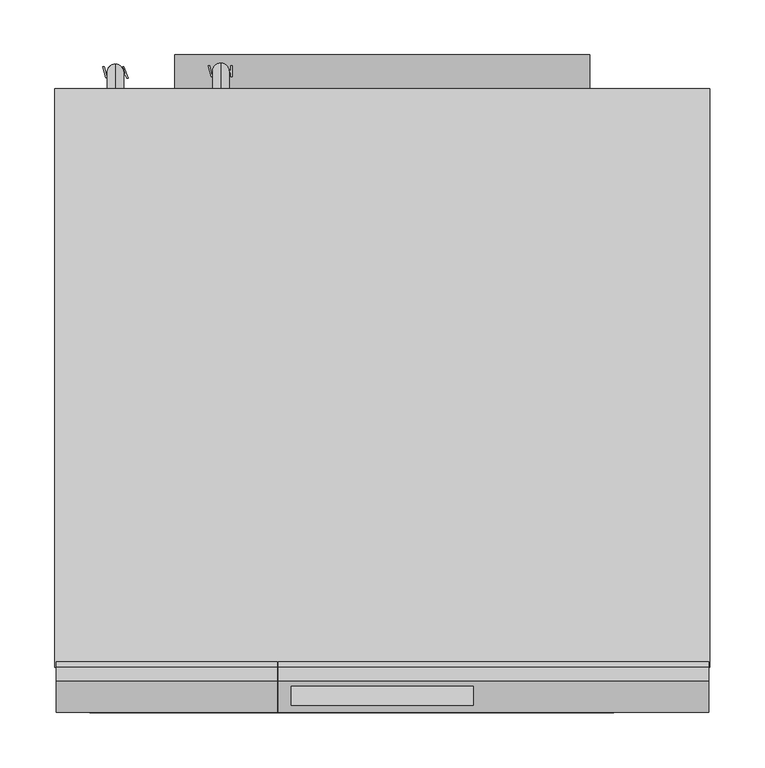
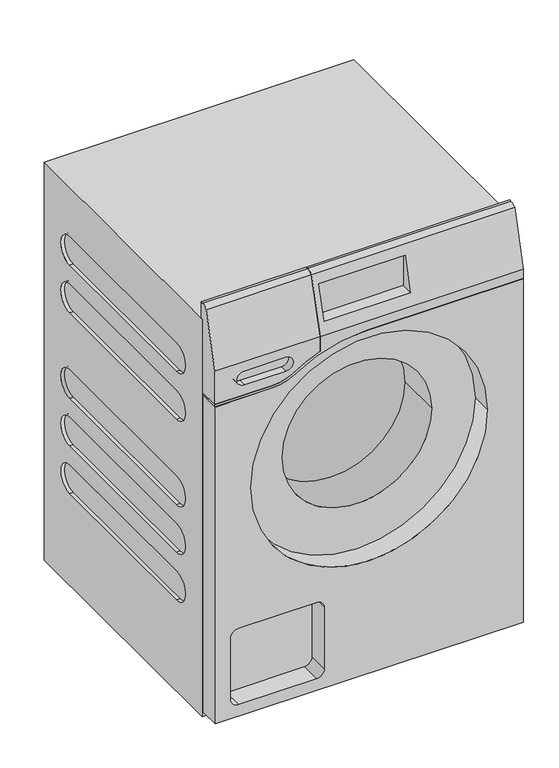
"""IFC4 building model written with IfcOpenShell, lengths in millimetres: proxy geometry, 12728160_I_WEE395WCS_LW : 11EE3951_I_12728160_WEE395WCS_LW."""

from ifc_helpers import new_model, si_unit, point, frame, frame_2d, origin, origin_with_axes, place, context, project, spatial, polyline, circle_curve, ellipse_curve, trimmed, segment, composite_curve, outline, extrude, source, transform, mapped, element, save
from ifc_brep_helpers import plane_surface, cylinder_surface, revolved_surface, advanced_brep


def specialty_equipment_d5196754(model_context):
    return source(origin(), model_context, "Body", "SolidModel", [
        advanced_brep(
        [(297.0, -554.0, 850.0), (297.0, -558.3743789, 850.0), (297.0, -570.9595268, 844.5396324), (297.0, -600.0, 736.159111), (297.0, -600.0, 718.0), (297.0, -560.0, 718.0), (297.0, -560.0, 818.0), (297.0, -554.0, 818.0), (-297.0, -560.0, 664.0), (-297.0, -600.0, 664.0), (-297.0, -600.0, 668.0), (-297.0, -560.0, 668.0), (-94.5, -554.0, 850.0), (-94.5, -558.3743789, 850.0), (-94.5, -600.0, 736.159111), (-94.5, -600.0, 705.9439484), (-147.3302559, -600.0, 678.7366161), (-185.7266361, -600.0, 668.0), (-186.2266361, -600.0, 664.0), (-145.1722991, -600.0, 675.3673121), (-5.7577941, -600.0, 718.0), (-5.7577941, -560.0, 718.0), (-145.1722991, -560.0, 675.3673121), (-186.2266361, -560.0, 664.0), (-185.7266361, -560.0, 668.0), (-147.3302559, -560.0, 678.7366161), (-94.5, -560.0, 705.9439484), (-94.5, -560.0, 818.0), (-94.5, -554.0, 818.0), (-94.5, -570.9595268, 844.5396324), (83.0, -570.0, 825.0), (-83.0, -570.0, 825.0), (-83.0, -570.0, 760.0), (83.0, -570.0, 760.0), (83.0, -593.611853, 760.0), (83.0, -576.1951555, 825.0), (-83.0, -593.611853, 760.0), (-83.0, -576.1951555, 825.0)],
        [
            (0, 1),
            (1, 2, circle_curve(frame((297.0, -558.3480923, 832.7059991), z_axis=(1.0, 0.0, 0.0), x_axis=(0.0, 0.0, 1.0)), 17.2940209)),
            (2, 3),
            (3, 4),
            (4, 5),
            (5, 6),
            (6, 7),
            (7, 0),
            (8, 9),
            (9, 10),
            (10, 11),
            (11, 8),
            (0, 12),
            (12, 13),
            (13, 1),
            (3, 14),
            (14, 15),
            (15, 16, circle_curve(frame((-5.7577941, -600.0, 468.7317583), z_axis=(0.0, -1.0, 0.0), x_axis=(-1.0, 0.0, 0.0)), 253.2682417)),
            (16, 17, circle_curve(frame((-185.7266361, -600.0, 742.0250428), z_axis=(0.0, 1.0, 0.0), x_axis=(-1.0, 0.0, 0.0)), 74.0250428)),
            (17, 10),
            (9, 18),
            (18, 19, circle_curve(frame((-186.2266361, -600.0, 743.8198531), z_axis=(0.0, -1.0, 0.0), x_axis=(-1.0, 0.0, 0.0)), 79.8198531)),
            (19, 20, circle_curve(frame((-5.7577941, -600.0, 468.7317583), z_axis=(0.0, 1.0, 0.0), x_axis=(-1.0, 0.0, 0.0)), 249.2682417)),
            (20, 4),
            (5, 21),
            (21, 22, circle_curve(frame((-5.7577941, -560.0, 468.7317583), z_axis=(0.0, -1.0, 0.0), x_axis=(-1.0, 0.0, 0.0)), 249.2682417)),
            (22, 23, circle_curve(frame((-186.2266361, -560.0, 743.8198531), z_axis=(0.0, 1.0, 0.0), x_axis=(-1.0, 0.0, 0.0)), 79.8198531)),
            (23, 8),
            (11, 24),
            (24, 25, circle_curve(frame((-185.7266361, -560.0, 742.0250428), z_axis=(0.0, -1.0, 0.0), x_axis=(-1.0, 0.0, 0.0)), 74.0250428)),
            (25, 26, circle_curve(frame((-5.7577941, -560.0, 468.7317583), z_axis=(0.0, 1.0, 0.0), x_axis=(-1.0, 0.0, 0.0)), 253.2682417)),
            (26, 27),
            (27, 6),
            (27, 28),
            (28, 7),
            (28, 12),
            (19, 22),
            (21, 20),
            (13, 29, circle_curve(frame((-94.5, -558.3480923, 832.7059991), z_axis=(1.0, 0.0, 0.0), x_axis=(0.0, 0.0, 1.0)), 17.2940209)),
            (29, 2),
            (26, 15),
            (14, 29),
            (30, 31),
            (31, 32),
            (32, 33),
            (33, 30),
            (33, 34),
            (34, 35),
            (35, 30),
            (32, 36),
            (36, 34),
            (31, 37),
            (37, 36),
            (35, 37),
            (18, 23),
            (25, 16),
            (24, 17),
        ],
        [
            plane_surface(frame((297.0, -558.3743789, 850.0), z_axis=(1.0, 0.0, 0.0), x_axis=(0.0, -1.0, 0.0))),
            plane_surface(frame((-297.0, -558.3743789, 850.0), z_axis=(-1.0, 0.0, 0.0), x_axis=(0.0, 1.0, 0.0))),
            plane_surface(frame((297.0, -554.0, 850.0), z_axis=(0.0, 0.0, 1.0), x_axis=(-1.0, 0.0, 0.0))),
            plane_surface(frame((297.0, -600.0, 736.159111), z_axis=(0.0, -1.0, 0.0), x_axis=(-1.0, 0.0, 0.0))),
            plane_surface(frame((297.0, -560.0, 658.0), z_axis=(0.0, 1.0, 0.0), x_axis=(-1.0, 0.0, 0.0))),
            plane_surface(frame((297.0, -560.0, 818.0), z_axis=(0.0, 0.0, -1.0), x_axis=(-1.0, 0.0, 0.0))),
            plane_surface(frame((297.0, -554.0, 818.0), z_axis=(0.0, 1.0, 0.0), x_axis=(-1.0, 0.0, 0.0))),
            revolved_surface(polyline([(-255.02603580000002, -560.0, 468.7317583), (-255.02603580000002, -600.0, 468.7317583)]), (-5.7577941, -600.0, 468.7317583), (0.0, 1.0, 0.0)),
            plane_surface(frame((-5.7577941, -537.827873, 718.0), z_axis=(0.0, 0.0, -1.0), x_axis=(0.0, -1.0, 0.0))),
            cylinder_surface(frame((-297.0, -558.3480923, 832.7059991), z_axis=(1.0, 0.0, 0.0), x_axis=(0.0, 0.0, 1.0)), 17.2940209),
            plane_surface(frame((-94.5, -547.2464252, 852.4552379), z_axis=(-1.0, 0.0, 0.0), x_axis=(0.0, -1.0, 0.0))),
            plane_surface(frame((83.0, -570.0, 825.0), z_axis=(0.0, -1.0, 0.0), x_axis=(0.0, 0.0, -1.0))),
            plane_surface(frame((83.0, -570.0, 825.0), z_axis=(-1.0, 0.0, 0.0), x_axis=(0.0, -1.0, 0.0))),
            plane_surface(frame((83.0, -570.0, 760.0), z_axis=(0.0, 0.0, 1.0), x_axis=(0.0, -1.0, 0.0))),
            plane_surface(frame((-83.0, -570.0, 760.0), z_axis=(1.0, 0.0, 0.0), x_axis=(0.0, -1.0, 0.0))),
            plane_surface(frame((-83.0, -570.0, 825.0), z_axis=(0.0, 0.0, -1.0), x_axis=(0.0, -1.0, 0.0))),
            plane_surface(frame((297.0, -570.9595268, 844.5396324), z_axis=(0.0, -0.9659258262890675, 0.25881904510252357), x_axis=(-1.0, 0.0, 0.0))),
            cylinder_surface(frame((-186.2266361, -600.0, 743.8198531), z_axis=(0.0, -1.0, 0.0), x_axis=(-1.0, 0.0, 0.0)), 79.8198531),
            plane_surface(frame((-297.0, -537.827873, 664.0), z_axis=(0.0, 0.0, -1.0), x_axis=(0.0, -1.0, 0.0))),
            cylinder_surface(frame((-5.7577941, -600.0, 468.7317583), z_axis=(0.0, -1.0, 0.0), x_axis=(-1.0, 0.0, 0.0)), 253.2682417),
            revolved_surface(polyline([(-259.7516789, -560.0, 742.0250428), (-259.7516789, -600.0, 742.0250428)]), (-185.7266361, -600.0, 742.0250428), (0.0, 1.0, 0.0)),
            plane_surface(frame((-185.7266361, -547.2464252, 668.0), z_axis=(0.0, 0.0, 1.0), x_axis=(0.0, -1.0, 0.0))),
        ],
        [
            (0, [[1, 2, 3, 4, 5, 6, 7, 8]]),
            (1, [[9, 10, 11, 12]]),
            (2, [[-1, 13, 14, 15]]),
            (3, [[-4, 16, 17, 18, 19, 20, -10, 21, 22, 23, 24]]),
            (4, [[-6, 25, 26, 27, 28, -12, 29, 30, 31, 32, 33]]),
            (5, [[-7, -33, 34, 35]]),
            (6, [[-8, -35, 36, -13]]),
            (7, [[37, -26, 38, -23]]),
            (8, [[-38, -25, -5, -24]]),
            (9, [[-2, -15, 39, 40]]),
            (10, [[41, -17, 42, -39, -14, -36, -34, -32]]),
            (11, [[43, 44, 45, 46]]),
            (12, [[-46, 47, 48, 49]]),
            (13, [[-45, 50, 51, -47]]),
            (14, [[-44, 52, 53, -50]]),
            (15, [[-43, -49, 54, -52]]),
            (16, [[-3, -40, -42, -16], [-48, -51, -53, -54]]),
            (17, [[55, -27, -37, -22]]),
            (18, [[-55, -21, -9, -28]]),
            (19, [[-41, -31, 56, -18]]),
            (20, [[-56, -30, 57, -19]]),
            (21, [[-57, -29, -11, -20]]),
        ],
    ),
        advanced_brep(
        [(-297.0, -554.0, 850.0), (-297.0, -554.0, 818.0), (-297.0, -560.0, 818.0), (-297.0, -560.0, 669.0), (-297.0, -600.0, 669.0), (-297.0, -600.0, 736.159111), (-297.0, -570.9595268, 844.5396324), (-297.0, -558.3743789, 850.0), (-95.5, -558.3743789, 850.0), (-95.5, -554.0, 850.0), (-185.7266361, -600.0, 669.0), (-147.869315, -600.0, 679.5792254), (-95.5, -600.0, 706.6365191), (-95.5, -600.0, 736.159111), (-240.5, -600.0, 717.0), (-160.5, -600.0, 717.0), (-160.5, -600.0, 689.0), (-240.5, -600.0, 689.0), (-95.5, -560.0, 818.0), (-95.5, -560.0, 706.6365191), (-147.869315, -560.0, 679.5792254), (-185.7266361, -560.0, 669.0), (-95.5, -554.0, 818.0), (-95.5, -570.9595268, 844.5396324), (-160.5, -585.0, 717.0), (-240.5, -585.0, 717.0), (-240.5, -585.0, 689.0), (-160.5, -585.0, 689.0)],
        [
            (0, 1),
            (1, 2),
            (2, 3),
            (3, 4),
            (4, 5),
            (5, 6),
            (6, 7, circle_curve(frame((-297.0, -558.3480923, 832.7059991), z_axis=(-1.0, 0.0, 0.0), x_axis=(0.0, 0.0, 1.0)), 17.2940209)),
            (7, 0),
            (7, 8),
            (8, 9),
            (9, 0),
            (4, 10),
            (10, 11, circle_curve(frame((-185.7266361, -600.0, 742.0250428), z_axis=(0.0, -1.0, 0.0), x_axis=(-1.0, 0.0, 0.0)), 73.0250428)),
            (11, 12, circle_curve(frame((-5.7577941, -600.0, 468.7317583), z_axis=(0.0, 1.0, 0.0), x_axis=(-1.0, 0.0, 0.0)), 254.2682417)),
            (12, 13),
            (13, 5),
            (14, 15),
            (15, 16, circle_curve(frame((-160.5, -600.0, 703.0), z_axis=(0.0, 1.0, 0.0), x_axis=(-1.0, 0.0, 0.0)), 14.0)),
            (16, 17),
            (17, 14, circle_curve(frame((-240.5, -600.0, 703.0), z_axis=(0.0, 1.0, 0.0), x_axis=(-1.0, 0.0, 0.0)), 14.0)),
            (2, 18),
            (18, 19),
            (19, 20, circle_curve(frame((-5.7577941, -560.0, 468.7317583), z_axis=(0.0, -1.0, 0.0), x_axis=(-1.0, 0.0, 0.0)), 254.2682417)),
            (20, 21, circle_curve(frame((-185.7266361, -560.0, 742.0250428), z_axis=(0.0, 1.0, 0.0), x_axis=(-1.0, 0.0, 0.0)), 73.0250428)),
            (21, 3),
            (1, 22),
            (22, 18),
            (9, 22),
            (6, 23),
            (23, 8, circle_curve(frame((-95.5, -558.3480923, 832.7059991), z_axis=(-1.0, 0.0, 0.0), x_axis=(0.0, 0.0, 1.0)), 17.2940209)),
            (24, 25),
            (25, 26, circle_curve(frame((-240.5, -585.0, 703.0), z_axis=(0.0, -1.0, 0.0), x_axis=(-1.0, 0.0, 0.0)), 14.0)),
            (26, 27),
            (27, 24, circle_curve(frame((-160.5, -585.0, 703.0), z_axis=(0.0, -1.0, 0.0), x_axis=(-1.0, 0.0, 0.0)), 14.0)),
            (24, 15),
            (14, 25),
            (17, 26),
            (16, 27),
            (12, 19),
            (23, 13),
            (21, 10),
            (20, 11),
        ],
        [
            plane_surface(frame((-297.0, -558.3743789, 850.0), z_axis=(-1.0, 0.0, 0.0), x_axis=(0.0, 1.0, 0.0))),
            plane_surface(frame((297.0, -554.0, 850.0), z_axis=(0.0, 0.0, 1.0), x_axis=(-1.0, 0.0, 0.0))),
            plane_surface(frame((297.0, -600.0, 736.159111), z_axis=(0.0, -1.0, 0.0), x_axis=(-1.0, 0.0, 0.0))),
            plane_surface(frame((297.0, -560.0, 658.0), z_axis=(0.0, 1.0, 0.0), x_axis=(-1.0, 0.0, 0.0))),
            plane_surface(frame((297.0, -560.0, 818.0), z_axis=(0.0, 0.0, -1.0), x_axis=(-1.0, 0.0, 0.0))),
            plane_surface(frame((297.0, -554.0, 818.0), z_axis=(0.0, 1.0, 0.0), x_axis=(-1.0, 0.0, 0.0))),
            cylinder_surface(frame((-297.0, -558.3480923, 832.7059991), z_axis=(1.0, 0.0, 0.0), x_axis=(0.0, 0.0, 1.0)), 17.2940209),
            plane_surface(frame((-174.5, -585.0, 703.0), z_axis=(0.0, -1.0, 0.0), x_axis=(0.0, 0.0, 1.0))),
            plane_surface(frame((-240.5, -585.0, 717.0), z_axis=(0.0, 0.0, -1.0), x_axis=(0.0, -1.0, 0.0))),
            revolved_surface(polyline([(-254.5, -585.0, 703.0), (-254.5, -600.0, 703.0)]), (-240.5, -625.7120467, 703.0), (0.0, 1.0, 0.0)),
            plane_surface(frame((-160.5, -585.0, 689.0), z_axis=(0.0, 0.0, 1.0), x_axis=(0.0, -1.0, 0.0))),
            revolved_surface(polyline([(-174.5, -585.0, 703.0), (-174.5, -600.0, 703.0)]), (-160.5, -625.7120467, 703.0), (0.0, 1.0, 0.0)),
            plane_surface(frame((-95.5, -547.2464252, 706.6365191), z_axis=(1.0, 0.0, 0.0), x_axis=(0.0, -1.0, 0.0))),
            plane_surface(frame((297.0, -570.9595268, 844.5396324), z_axis=(0.0, -0.9659258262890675, 0.25881904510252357), x_axis=(-1.0, 0.0, 0.0))),
            plane_surface(frame((-297.0, -547.2464252, 669.0), z_axis=(0.0, 0.0, -1.0), x_axis=(0.0, -1.0, 0.0))),
            cylinder_surface(frame((-185.7266361, -600.0, 742.0250428), z_axis=(0.0, -1.0, 0.0), x_axis=(-1.0, 0.0, 0.0)), 73.0250428),
            revolved_surface(polyline([(-260.0260358, -560.0, 468.7317583), (-260.0260358, -600.0, 468.7317583)]), (-5.7577941, -600.0, 468.7317583), (0.0, 1.0, 0.0)),
        ],
        [
            (0, [[1, 2, 3, 4, 5, 6, 7, 8]]),
            (1, [[-8, 9, 10, 11]]),
            (2, [[-5, 12, 13, 14, 15, 16], [17, 18, 19, 20]]),
            (3, [[-3, 21, 22, 23, 24, 25]]),
            (4, [[-2, 26, 27, -21]]),
            (5, [[-1, -11, 28, -26]]),
            (6, [[-7, 29, 30, -9]]),
            (7, [[31, 32, 33, 34]]),
            (8, [[-31, 35, -17, 36]]),
            (9, [[-32, -36, -20, 37]]),
            (10, [[-33, -37, -19, 38]]),
            (11, [[-34, -38, -18, -35]]),
            (12, [[39, -22, -27, -28, -10, -30, 40, -15]]),
            (13, [[-6, -16, -40, -29]]),
            (14, [[41, -12, -4, -25]]),
            (15, [[-41, -24, 42, -13]]),
            (16, [[-42, -23, -39, -14]]),
        ],
    ),
        extrude(outline(composite_curve([segment(polyline([(663.5, -296.5), (18.0, -296.5), (18.0, 296.5), (717.5, 296.5), (717.5, -5.7577941)]), True, "CONTINUOUS"), segment(trimmed(circle_curve(frame_2d((468.7317583, -5.7577941)), 248.7682417), [point((717.5, -5.7577941))], [point((674.9462734, -144.9023658))], False, "CARTESIAN"), True, "CONTINUOUS"), segment(trimmed(circle_curve(frame_2d((742.0250428, -185.7266361)), 78.5250428), [point((674.9462734, -144.9023658))], [point((663.5, -185.7266361))], True, "CARTESIAN"), True, "CONTINUOUS"), segment(polyline([(663.5, -185.7266361), (663.5, -296.5)]), True, "CONTINUOUS")], self_intersect=False), holes=[composite_curve([segment(trimmed(circle_curve(frame_2d((475.0, 0.0)), 228.0), [point((475.0, -228.0))], [point((475.0, 228.0))], True, "CARTESIAN"), True, "CONTINUOUS"), segment(trimmed(circle_curve(frame_2d((475.0, 0.0)), 228.0), [point((475.0, 228.0))], [point((475.0, -228.0))], True, "CARTESIAN"), True, "CONTINUOUS")], self_intersect=False), composite_curve([segment(polyline([(182.0, -86.5), (57.0, -86.5)]), True, "CONTINUOUS"), segment(trimmed(circle_curve(frame_2d((57.0, -101.5)), 15.0), [point((57.0, -86.5))], [point((42.0, -101.5))], True, "CARTESIAN"), True, "CONTINUOUS"), segment(polyline([(42.0, -101.5), (42.0, -251.5)]), True, "CONTINUOUS"), segment(trimmed(circle_curve(frame_2d((57.0, -251.5)), 15.0), [point((42.0, -251.5))], [point((57.0, -266.5))], True, "CARTESIAN"), True, "CONTINUOUS"), segment(polyline([(57.0, -266.5), (182.0, -266.5)]), True, "CONTINUOUS"), segment(trimmed(circle_curve(frame_2d((182.0, -251.5)), 15.0), [point((182.0, -266.5))], [point((197.0, -251.5))], True, "CARTESIAN"), True, "CONTINUOUS"), segment(polyline([(197.0, -251.5), (197.0, -101.5)]), True, "CONTINUOUS"), segment(trimmed(circle_curve(frame_2d((182.0, -101.5)), 15.0), [point((197.0, -101.5))], [point((182.0, -86.5))], True, "CARTESIAN"), True, "CONTINUOUS")], self_intersect=False)]), frame((0.0, -600.0, 0.0), z_axis=(0.0, 1.0, 0.0), x_axis=(0.0, 0.0, 1.0)), (0.0, 0.0, 1.0), 40.0),
        extrude(outline(composite_curve([segment(trimmed(circle_curve(frame_2d((172.0, 0.0)), 85.0), [point((128.0, -72.7255113))], [point((128.0, 72.7255113))], False, "CARTESIAN"), True, "CONTINUOUS"), segment(polyline([(128.0, 72.7255113), (457.0, 186.7618805)]), True, "CONTINUOUS"), segment(trimmed(circle_curve(frame_2d((486.0, 0.0)), 189.0), [point((457.0, 186.7618805))], [point((457.0, -186.7618805))], False, "CARTESIAN"), True, "CONTINUOUS"), segment(polyline([(457.0, -186.7618805), (128.0, -72.7255113)]), True, "CONTINUOUS")], self_intersect=False)), frame((0.0, -32.0, 0.0), z_axis=(0.0, 1.0, 0.0), x_axis=(0.0, 0.0, 1.0)), (0.0, 0.0, 1.0), 31.0),
        extrude(outline(polyline([(-245.0283197, -21.9198802), (-247.6226621, -13.1308402), (-250.3496859, -21.9195554), (-251.6847859, -21.9195554), (-254.4297172, -11.8631004), (-253.1339679, -11.8631004), (-251.0443144, -20.5032988), (-248.5340813, -11.857379), (-246.6711164, -11.857379), (-244.1552565, -20.5022346), (-242.0681971, -11.8564437), (-240.7754796, -11.8564437), (-243.5175667, -21.9198802), (-245.0283197, -21.9198802)])), frame((0.0, 0.0, 722.0), z_axis=(0.0, 0.0, 1.0), x_axis=(1.0, 0.0, 0.0)), (0.0, 0.0, 1.0), 1.0),
        extrude(outline(polyline([(-239.0721098, -22.0032768), (-240.4069745, -22.0032768), (-236.3935979, -11.9549404), (-235.3188514, -11.9549404), (-231.3155433, -21.9958861), (-232.6216403, -21.9958861), (-233.7882604, -18.865268), (-237.929968, -18.865268), (-239.0721098, -22.0032768)]), holes=[polyline([(-237.4730851, -17.6099926), (-234.256037, -17.6099926), (-235.8835115, -13.2426749), (-237.4730851, -17.6099926)])]), frame((0.0, 0.0, 722.0), z_axis=(0.0, 0.0, 1.0), x_axis=(1.0, 0.0, 0.0)), (0.0, 0.0, 1.0), 1.0),
        extrude(outline(polyline([(-149.0371951, -21.0084005), (-151.6315375, -12.2193606), (-154.3585613, -21.0080758), (-155.6936613, -21.0080758), (-158.4385926, -10.9516208), (-157.1428433, -10.9516208), (-155.0531898, -19.5918192), (-152.5429567, -10.9458994), (-150.6799918, -10.9458994), (-148.1641319, -19.590755), (-146.0770725, -10.9449641), (-144.784355, -10.9449641), (-147.5264421, -21.0084005), (-149.0371951, -21.0084005)])), frame((0.0, 0.0, 728.0), z_axis=(0.0, 0.0, 1.0), x_axis=(1.0, 0.0, 0.0)), (0.0, 0.0, 1.0), 1.0),
        extrude(outline(polyline([(-137.7520367, -21.0), (-137.7520367, -17.5380382), (-139.4320631, -15.9333791), (-143.267056, -20.9969068), (-144.8092352, -20.9969068), (-140.3268814, -15.0786372), (-144.6471582, -10.9521715), (-142.8938795, -10.9521715), (-137.7520367, -15.8633471), (-137.7520367, -10.9502531), (-136.4793974, -10.9502531), (-136.4793974, -21.0), (-137.7520367, -21.0)])), frame((0.0, 0.0, 728.0), z_axis=(0.0, 0.0, 1.0), x_axis=(1.0, 0.0, 0.0)), (0.0, 0.0, 1.0), 1.0),
        advanced_brep(
        [(-243.0, -32.0, 760.5), (-243.0, -32.0, 745.5), (-243.0, -9.5, 760.5), (-243.0, -24.5, 745.5), (-243.0, -9.5, 723.0), (-243.0, -24.5, 723.0)],
        [
            (0, 1, circle_curve(frame((-243.0, -32.0, 753.0), z_axis=(0.0, -1.0, 0.0), x_axis=(0.0, 0.0, -1.0)), 7.5)),
            (1, 0, circle_curve(frame((-243.0, -32.0, 753.0), z_axis=(0.0, -1.0, 0.0), x_axis=(0.0, 0.0, -1.0)), 7.5)),
            (0, 2),
            (2, 3, ellipse_curve(frame((-243.0, -17.0, 753.0), z_axis=(0.0, -0.7071067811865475, 0.7071067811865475), x_axis=(0.0, -0.7071067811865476, -0.7071067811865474)), 10.6066017, 7.5)),
            (3, 1),
            (3, 2, ellipse_curve(frame((-243.0, -17.0, 753.0), z_axis=(0.0, -0.7071067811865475, 0.7071067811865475), x_axis=(0.0, -0.7071067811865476, -0.7071067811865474)), 10.6066017, 7.5)),
            (4, 5, circle_curve(frame((-243.0, -17.0, 723.0), z_axis=(0.0, 0.0, -1.0), x_axis=(0.0, -1.0, 0.0)), 7.5)),
            (5, 4, circle_curve(frame((-243.0, -17.0, 723.0), z_axis=(0.0, 0.0, -1.0), x_axis=(0.0, -1.0, 0.0)), 7.5)),
            (2, 4),
            (5, 3),
        ],
        [
            plane_surface(frame((-243.0, -32.0, 753.0), z_axis=(0.0, -1.0, 0.0), x_axis=(-1.0, 0.0, 0.0))),
            cylinder_surface(frame((-243.0, -32.0, 753.0), z_axis=(0.0, -1.0, 0.0), x_axis=(0.0, 0.0, -1.0)), 7.5),
            plane_surface(frame((-243.0, -17.0, 723.0), z_axis=(0.0, 0.0, -1.0), x_axis=(-1.0, 0.0, 0.0))),
            cylinder_surface(frame((-243.0, -17.0, 753.0), z_axis=(0.0, 0.0, 1.0), x_axis=(0.0, -1.0, 0.0)), 7.5),
        ],
        [
            (0, [[1, 2]]),
            (1, [[-1, 3, 4, 5]]),
            (1, [[-2, -5, 6, -3]]),
            (2, [[7, 8]]),
            (3, [[-4, 9, -8, 10]]),
            (3, [[-6, -10, -7, -9]]),
        ],
    ),
        advanced_brep(
        [(-147.0, -32.0, 766.5), (-147.0, -32.0, 751.5), (-147.0, -8.5, 766.5), (-147.0, -23.5, 751.5), (-147.0, -8.5, 729.0), (-147.0, -23.5, 729.0)],
        [
            (0, 1, circle_curve(frame((-147.0, -32.0, 759.0), z_axis=(0.0, -1.0, 0.0), x_axis=(0.0, 0.0, -1.0)), 7.5)),
            (1, 0, circle_curve(frame((-147.0, -32.0, 759.0), z_axis=(0.0, -1.0, 0.0), x_axis=(0.0, 0.0, -1.0)), 7.5)),
            (0, 2),
            (2, 3, ellipse_curve(frame((-147.0, -16.0, 759.0), z_axis=(0.0, -0.70710678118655, 0.707106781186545), x_axis=(0.0, -0.7071067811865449, -0.70710678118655)), 10.6066017, 7.5)),
            (3, 1),
            (3, 2, ellipse_curve(frame((-147.0, -16.0, 759.0), z_axis=(0.0, -0.70710678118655, 0.707106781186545), x_axis=(0.0, -0.7071067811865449, -0.70710678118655)), 10.6066017, 7.5)),
            (4, 5, circle_curve(frame((-147.0, -16.0, 729.0), z_axis=(0.0, 0.0, -1.0), x_axis=(0.0, -1.0, 0.0)), 7.5)),
            (5, 4, circle_curve(frame((-147.0, -16.0, 729.0), z_axis=(0.0, 0.0, -1.0), x_axis=(0.0, -1.0, 0.0)), 7.5)),
            (2, 4),
            (5, 3),
        ],
        [
            plane_surface(frame((-147.0, -32.0, 759.0), z_axis=(0.0, -1.0, 0.0), x_axis=(-1.0, 0.0, 0.0))),
            cylinder_surface(frame((-147.0, -32.0, 759.0), z_axis=(0.0, -1.0, 0.0), x_axis=(0.0, 0.0, -1.0)), 7.5),
            plane_surface(frame((-147.0, -16.0, 729.0), z_axis=(0.0, 0.0, -1.0), x_axis=(-1.0, 0.0, 0.0))),
            cylinder_surface(frame((-147.0, -16.0, 759.0), z_axis=(0.0, 0.0, 1.0), x_axis=(0.0, -1.0, 0.0)), 7.5),
        ],
        [
            (0, [[1, 2]]),
            (1, [[-1, 3, 4, 5]]),
            (1, [[-2, -5, 6, -3]]),
            (2, [[7, 8]]),
            (3, [[-4, 9, -8, 10]]),
            (3, [[-6, -10, -7, -9]]),
        ],
    ),
        extrude(outline(polyline([(-24.1489694, 55.8141378), (-30.1201763, 55.8141378), (-30.1201763, 52.8005704), (-24.4569949, 52.8005704), (-24.4569949, 51.521084), (-30.1201763, 51.521084), (-30.1201763, 48.2496698), (-23.9879713, 48.2496698), (-23.9879713, 46.9701834), (-31.3464231, 46.9701834), (-31.3464231, 57.0455767), (-24.1489694, 57.0455767), (-24.1489694, 55.8141378)])), frame((-91.0, 0.0, 0.0), z_axis=(1.0, 0.0, 0.0), x_axis=(0.0, 1.0, 0.0)), (0.0, 0.0, 1.0), 1.0),
        extrude(outline(polyline([(-20.8531587, 57.0429653), (-20.8531587, 48.2519801), (-15.8267296, 48.2519801), (-15.8267296, 46.9971234), (-22.1029105, 46.9971234), (-22.1029105, 57.0429653), (-20.8531587, 57.0429653)])), frame((-91.0, 0.0, 0.0), z_axis=(1.0, 0.0, 0.0), x_axis=(0.0, 1.0, 0.0)), (0.0, 0.0, 1.0), 1.0),
        extrude(outline(composite_curve([segment(trimmed(circle_curve(frame_2d((-24.5, 52.0)), 7.5), [point((-24.5, 44.5))], [point((-24.5, 59.5))], False, "CARTESIAN"), True, "CONTINUOUS"), segment(trimmed(circle_curve(frame_2d((-24.5, 52.0)), 7.5), [point((-24.5, 59.5))], [point((-24.5, 44.5))], False, "CARTESIAN"), True, "CONTINUOUS")], self_intersect=False)), frame((-121.0, 0.0, 0.0), z_axis=(1.0, 0.0, 0.0), x_axis=(0.0, 1.0, 0.0)), (0.0, 0.0, 1.0), 30.0),
        extrude(outline(polyline([(-157.0, -17.0), (-121.0, -17.0), (-121.0, -32.0), (-157.0, -32.0), (-157.0, -17.0)])), frame((0.0, 0.0, 38.5), z_axis=(0.0, 0.0, 1.0), x_axis=(1.0, 0.0, 0.0)), (0.0, 0.0, 1.0), 27.0),
        advanced_brep(
        [(298.0, -32.0, 818.0), (-298.0, -32.0, 818.0), (-298.0, -559.0, 818.0), (298.0, -559.0, 818.0), (298.0, -32.0, 8.0), (298.0, -559.0, 8.0), (-298.0, -559.0, 8.0), (-298.0, -32.0, 8.0), (-298.0, -117.0, 253.0), (-298.0, -474.0, 253.0), (-298.0, -474.0, 195.0), (-298.0, -117.0, 195.0), (-298.0, -117.0, 350.0), (-298.0, -474.0, 350.0), (-298.0, -474.0, 292.0), (-298.0, -117.0, 292.0), (-298.0, -474.0, 563.0), (-298.0, -117.0, 563.0), (-298.0, -117.0, 621.0), (-298.0, -474.0, 621.0), (-298.0, -117.0, 718.0), (-298.0, -474.0, 718.0), (-298.0, -474.0, 660.0), (-298.0, -117.0, 660.0), (-298.0, -117.0, 447.0), (-298.0, -474.0, 447.0), (-298.0, -474.0, 389.0), (-298.0, -117.0, 389.0), (144.0, -559.0, 482.0), (-144.0, -559.0, 482.0), (298.0, -474.0, 253.0), (298.0, -117.0, 253.0), (298.0, -117.0, 195.0), (298.0, -474.0, 195.0), (298.0, -474.0, 350.0), (298.0, -117.0, 350.0), (298.0, -117.0, 292.0), (298.0, -474.0, 292.0), (298.0, -117.0, 563.0), (298.0, -474.0, 563.0), (298.0, -474.0, 621.0), (298.0, -117.0, 621.0), (298.0, -474.0, 718.0), (298.0, -117.0, 718.0), (298.0, -117.0, 660.0), (298.0, -474.0, 660.0), (298.0, -474.0, 447.0), (298.0, -117.0, 447.0), (298.0, -117.0, 389.0), (298.0, -474.0, 389.0), (291.0, -117.0, 253.0), (291.0, -474.0, 253.0), (291.0, -474.0, 195.0), (291.0, -117.0, 195.0), (291.0, -117.0, 350.0), (291.0, -474.0, 350.0), (291.0, -474.0, 292.0), (291.0, -117.0, 292.0), (291.0, -474.0, 563.0), (291.0, -117.0, 563.0), (291.0, -117.0, 621.0), (291.0, -474.0, 621.0), (291.0, -117.0, 718.0), (291.0, -474.0, 718.0), (291.0, -474.0, 660.0), (291.0, -117.0, 660.0), (-291.0, -117.0, 253.0), (-291.0, -117.0, 195.0), (-291.0, -474.0, 195.0), (-291.0, -474.0, 253.0), (-291.0, -117.0, 350.0), (-291.0, -117.0, 292.0), (-291.0, -474.0, 292.0), (-291.0, -474.0, 350.0), (-291.0, -474.0, 563.0), (-291.0, -474.0, 621.0), (-291.0, -117.0, 621.0), (-291.0, -117.0, 563.0), (-291.0, -117.0, 718.0), (-291.0, -117.0, 660.0), (-291.0, -474.0, 660.0), (-291.0, -474.0, 718.0), (-144.0, -471.0, 482.0), (144.0, -471.0, 482.0), (240.0, -148.0, 482.0), (-240.0, -148.0, 482.0), (240.0, -471.0, 482.0), (-240.0, -471.0, 482.0), (291.0, -117.0, 447.0), (291.0, -474.0, 447.0), (291.0, -474.0, 389.0), (291.0, -117.0, 389.0), (-291.0, -117.0, 447.0), (-291.0, -117.0, 389.0), (-291.0, -474.0, 389.0), (-291.0, -474.0, 447.0)],
        [
            (0, 1),
            (1, 2),
            (2, 3),
            (3, 0),
            (4, 5),
            (5, 6),
            (6, 7),
            (7, 4),
            (0, 4),
            (7, 1),
            (6, 2),
            (8, 9),
            (9, 10, circle_curve(frame((-298.0, -474.0, 224.0), z_axis=(1.0, 0.0, 0.0), x_axis=(0.0, 0.0, 1.0)), 29.0)),
            (10, 11),
            (11, 8, circle_curve(frame((-298.0, -117.0, 224.0), z_axis=(1.0, 0.0, 0.0), x_axis=(0.0, 0.0, 1.0)), 29.0)),
            (12, 13),
            (13, 14, circle_curve(frame((-298.0, -474.0, 321.0), z_axis=(1.0, 0.0, 0.0), x_axis=(0.0, 0.0, 1.0)), 29.0)),
            (14, 15),
            (15, 12, circle_curve(frame((-298.0, -117.0, 321.0), z_axis=(1.0, 0.0, 0.0), x_axis=(0.0, 0.0, 1.0)), 29.0)),
            (16, 17),
            (17, 18, circle_curve(frame((-298.0, -117.0, 592.0), z_axis=(1.0, 0.0, 0.0), x_axis=(0.0, 0.0, 1.0)), 29.0)),
            (18, 19),
            (19, 16, circle_curve(frame((-298.0, -474.0, 592.0), z_axis=(1.0, 0.0, 0.0), x_axis=(0.0, 0.0, 1.0)), 29.0)),
            (20, 21),
            (21, 22, circle_curve(frame((-298.0, -474.0, 689.0), z_axis=(1.0, 0.0, 0.0), x_axis=(0.0, 0.0, 1.0)), 29.0)),
            (22, 23),
            (23, 20, circle_curve(frame((-298.0, -117.0, 689.0), z_axis=(1.0, 0.0, 0.0), x_axis=(0.0, 0.0, 1.0)), 29.0)),
            (24, 25),
            (25, 26, circle_curve(frame((-298.0, -474.0, 418.0), z_axis=(1.0, 0.0, 0.0), x_axis=(0.0, 0.0, -1.0)), 29.0)),
            (26, 27),
            (27, 24, circle_curve(frame((-298.0, -117.0, 418.0), z_axis=(1.0, 0.0, 0.0), x_axis=(0.0, 0.0, -1.0)), 29.0)),
            (5, 3),
            (28, 29, circle_curve(frame((0.0, -559.0, 482.0), z_axis=(0.0, 1.0, 0.0), x_axis=(-1.0, 0.0, 0.0)), 144.0)),
            (29, 28, circle_curve(frame((0.0, -559.0, 482.0), z_axis=(0.0, 1.0, 0.0), x_axis=(-1.0, 0.0, 0.0)), 144.0)),
            (30, 31),
            (31, 32, circle_curve(frame((298.0, -117.0, 224.0), z_axis=(-1.0, 0.0, 0.0), x_axis=(0.0, 0.0, 1.0)), 29.0)),
            (32, 33),
            (33, 30, circle_curve(frame((298.0, -474.0, 224.0), z_axis=(-1.0, 0.0, 0.0), x_axis=(0.0, 0.0, 1.0)), 29.0)),
            (34, 35),
            (35, 36, circle_curve(frame((298.0, -117.0, 321.0), z_axis=(-1.0, 0.0, 0.0), x_axis=(0.0, 0.0, 1.0)), 29.0)),
            (36, 37),
            (37, 34, circle_curve(frame((298.0, -474.0, 321.0), z_axis=(-1.0, 0.0, 0.0), x_axis=(0.0, 0.0, 1.0)), 29.0)),
            (38, 39),
            (39, 40, circle_curve(frame((298.0, -474.0, 592.0), z_axis=(-1.0, 0.0, 0.0), x_axis=(0.0, 0.0, 1.0)), 29.0)),
            (40, 41),
            (41, 38, circle_curve(frame((298.0, -117.0, 592.0), z_axis=(-1.0, 0.0, 0.0), x_axis=(0.0, 0.0, 1.0)), 29.0)),
            (42, 43),
            (43, 44, circle_curve(frame((298.0, -117.0, 689.0), z_axis=(-1.0, 0.0, 0.0), x_axis=(0.0, 0.0, 1.0)), 29.0)),
            (44, 45),
            (45, 42, circle_curve(frame((298.0, -474.0, 689.0), z_axis=(-1.0, 0.0, 0.0), x_axis=(0.0, 0.0, 1.0)), 29.0)),
            (46, 47),
            (47, 48, circle_curve(frame((298.0, -117.0, 418.0), z_axis=(-1.0, 0.0, 0.0), x_axis=(0.0, 0.0, -1.0)), 29.0)),
            (48, 49),
            (49, 46, circle_curve(frame((298.0, -474.0, 418.0), z_axis=(-1.0, 0.0, 0.0), x_axis=(0.0, 0.0, -1.0)), 29.0)),
            (50, 51),
            (51, 52, circle_curve(frame((291.0, -474.0, 224.0), z_axis=(1.0, 0.0, 0.0), x_axis=(0.0, 0.0, 1.0)), 29.0)),
            (52, 53),
            (53, 50, circle_curve(frame((291.0, -117.0, 224.0), z_axis=(1.0, 0.0, 0.0), x_axis=(0.0, 0.0, 1.0)), 29.0)),
            (54, 55),
            (55, 56, circle_curve(frame((291.0, -474.0, 321.0), z_axis=(1.0, 0.0, 0.0), x_axis=(0.0, 0.0, 1.0)), 29.0)),
            (56, 57),
            (57, 54, circle_curve(frame((291.0, -117.0, 321.0), z_axis=(1.0, 0.0, 0.0), x_axis=(0.0, 0.0, 1.0)), 29.0)),
            (58, 59),
            (59, 60, circle_curve(frame((291.0, -117.0, 592.0), z_axis=(1.0, 0.0, 0.0), x_axis=(0.0, 0.0, 1.0)), 29.0)),
            (60, 61),
            (61, 58, circle_curve(frame((291.0, -474.0, 592.0), z_axis=(1.0, 0.0, 0.0), x_axis=(0.0, 0.0, 1.0)), 29.0)),
            (62, 63),
            (63, 64, circle_curve(frame((291.0, -474.0, 689.0), z_axis=(1.0, 0.0, 0.0), x_axis=(0.0, 0.0, 1.0)), 29.0)),
            (64, 65),
            (65, 62, circle_curve(frame((291.0, -117.0, 689.0), z_axis=(1.0, 0.0, 0.0), x_axis=(0.0, 0.0, 1.0)), 29.0)),
            (50, 31),
            (30, 51),
            (33, 52),
            (32, 53),
            (54, 35),
            (34, 55),
            (37, 56),
            (36, 57),
            (58, 39),
            (38, 59),
            (41, 60),
            (40, 61),
            (62, 43),
            (42, 63),
            (45, 64),
            (44, 65),
            (66, 67, circle_curve(frame((-291.0, -117.0, 224.0), z_axis=(-1.0, 0.0, 0.0), x_axis=(0.0, 0.0, 1.0)), 29.0)),
            (67, 68),
            (68, 69, circle_curve(frame((-291.0, -474.0, 224.0), z_axis=(-1.0, 0.0, 0.0), x_axis=(0.0, 0.0, 1.0)), 29.0)),
            (69, 66),
            (70, 71, circle_curve(frame((-291.0, -117.0, 321.0), z_axis=(-1.0, 0.0, 0.0), x_axis=(0.0, 0.0, 1.0)), 29.0)),
            (71, 72),
            (72, 73, circle_curve(frame((-291.0, -474.0, 321.0), z_axis=(-1.0, 0.0, 0.0), x_axis=(0.0, 0.0, 1.0)), 29.0)),
            (73, 70),
            (74, 75, circle_curve(frame((-291.0, -474.0, 592.0), z_axis=(-1.0, 0.0, 0.0), x_axis=(0.0, 0.0, 1.0)), 29.0)),
            (75, 76),
            (76, 77, circle_curve(frame((-291.0, -117.0, 592.0), z_axis=(-1.0, 0.0, 0.0), x_axis=(0.0, 0.0, 1.0)), 29.0)),
            (77, 74),
            (78, 79, circle_curve(frame((-291.0, -117.0, 689.0), z_axis=(-1.0, 0.0, 0.0), x_axis=(0.0, 0.0, 1.0)), 29.0)),
            (79, 80),
            (80, 81, circle_curve(frame((-291.0, -474.0, 689.0), z_axis=(-1.0, 0.0, 0.0), x_axis=(0.0, 0.0, 1.0)), 29.0)),
            (81, 78),
            (69, 9),
            (8, 66),
            (68, 10),
            (67, 11),
            (73, 13),
            (12, 70),
            (72, 14),
            (71, 15),
            (77, 17),
            (16, 74),
            (76, 18),
            (75, 19),
            (81, 21),
            (20, 78),
            (80, 22),
            (79, 23),
            (82, 29),
            (28, 83),
            (83, 82, circle_curve(frame((0.0, -471.0, 482.0), z_axis=(0.0, 1.0, 0.0), x_axis=(-1.0, 0.0, 0.0)), 144.0)),
            (82, 83, circle_curve(frame((0.0, -471.0, 482.0), z_axis=(0.0, 1.0, 0.0), x_axis=(-1.0, 0.0, 0.0)), 144.0)),
            (84, 85, circle_curve(frame((0.0, -148.0, 482.0), z_axis=(0.0, -1.0, 0.0), x_axis=(-1.0, 0.0, 0.0)), 240.0)),
            (85, 84, circle_curve(frame((0.0, -148.0, 482.0), z_axis=(0.0, -1.0, 0.0), x_axis=(-1.0, 0.0, 0.0)), 240.0)),
            (86, 87, circle_curve(frame((0.0, -471.0, 482.0), z_axis=(0.0, 1.0, 0.0), x_axis=(-1.0, 0.0, 0.0)), 240.0)),
            (87, 86, circle_curve(frame((0.0, -471.0, 482.0), z_axis=(0.0, 1.0, 0.0), x_axis=(-1.0, 0.0, 0.0)), 240.0)),
            (85, 87),
            (86, 84),
            (88, 89),
            (89, 90, circle_curve(frame((291.0, -474.0, 418.0), z_axis=(1.0, 0.0, 0.0), x_axis=(0.0, 0.0, -1.0)), 29.0)),
            (90, 91),
            (91, 88, circle_curve(frame((291.0, -117.0, 418.0), z_axis=(1.0, 0.0, 0.0), x_axis=(0.0, 0.0, -1.0)), 29.0)),
            (88, 47),
            (46, 89),
            (49, 90),
            (48, 91),
            (92, 93, circle_curve(frame((-291.0, -117.0, 418.0), z_axis=(-1.0, 0.0, 0.0), x_axis=(0.0, 0.0, -1.0)), 29.0)),
            (93, 94),
            (94, 95, circle_curve(frame((-291.0, -474.0, 418.0), z_axis=(-1.0, 0.0, 0.0), x_axis=(0.0, 0.0, -1.0)), 29.0)),
            (95, 92),
            (95, 25),
            (24, 92),
            (94, 26),
            (93, 27),
        ],
        [
            plane_surface(frame((-298.0, -32.0, 818.0), z_axis=(0.0, 0.0, 1.0), x_axis=(-1.0, 0.0, 0.0))),
            plane_surface(frame((-298.0, -32.0, 8.0), z_axis=(0.0, 0.0, -1.0), x_axis=(1.0, 0.0, 0.0))),
            plane_surface(frame((298.0, -32.0, 818.0), z_axis=(0.0, 1.0, 0.0), x_axis=(0.0, 0.0, -1.0))),
            plane_surface(frame((-298.0, -32.0, 818.0), z_axis=(-1.0, 0.0, 0.0), x_axis=(0.0, 0.0, -1.0))),
            plane_surface(frame((-298.0, -559.0, 818.0), z_axis=(0.0, -1.0, 0.0), x_axis=(0.0, 0.0, -1.0))),
            plane_surface(frame((298.0, -559.0, 818.0), z_axis=(1.0, 0.0, 0.0), x_axis=(0.0, 0.0, -1.0))),
            plane_surface(frame((291.0, -474.0, 253.0), z_axis=(1.0, 0.0, 0.0), x_axis=(0.0, 1.0, 0.0))),
            plane_surface(frame((298.0, -117.0, 253.0), z_axis=(0.0, 0.0, -1.0), x_axis=(-1.0, 0.0, 0.0))),
            revolved_surface(polyline([(298.0, -474.0, 253.0), (291.0, -474.0, 253.0)]), (291.0, -474.0, 224.0), (1.0, 0.0, 0.0)),
            plane_surface(frame((298.0, -474.0, 195.0), z_axis=(0.0, 0.0, 1.0), x_axis=(-1.0, 0.0, 0.0))),
            revolved_surface(polyline([(298.0, -117.0, 253.0), (291.0, -117.0, 253.0)]), (291.0, -117.0, 224.0), (1.0, 0.0, 0.0)),
            plane_surface(frame((298.0, -117.0, 350.0), z_axis=(0.0, 0.0, -1.0), x_axis=(-1.0, 0.0, 0.0))),
            revolved_surface(polyline([(298.0, -474.0, 350.0), (291.0, -474.0, 350.0)]), (298.0, -474.0, 321.0), (1.0, 0.0, 0.0)),
            plane_surface(frame((298.0, -474.0, 292.0), z_axis=(0.0, 0.0, 1.0), x_axis=(-1.0, 0.0, 0.0))),
            revolved_surface(polyline([(298.0, -117.0, 350.0), (291.0, -117.0, 350.0)]), (298.0, -117.0, 321.0), (1.0, 0.0, 0.0)),
            plane_surface(frame((298.0, -474.0, 563.0), z_axis=(0.0, 0.0, 1.0), x_axis=(-1.0, 0.0, 0.0))),
            revolved_surface(polyline([(298.0, -117.0, 621.0), (291.0, -117.0, 621.0)]), (298.0, -117.0, 592.0), (1.0, 0.0, 0.0)),
            plane_surface(frame((298.0, -117.0, 621.0), z_axis=(0.0, 0.0, -1.0), x_axis=(-1.0, 0.0, 0.0))),
            revolved_surface(polyline([(298.0, -474.0, 621.0), (291.0, -474.0, 621.0)]), (298.0, -474.0, 592.0), (1.0, 0.0, 0.0)),
            plane_surface(frame((298.0, -117.0, 718.0), z_axis=(0.0, 0.0, -1.0), x_axis=(-1.0, 0.0, 0.0))),
            revolved_surface(polyline([(298.0, -474.0, 718.0), (291.0, -474.0, 718.0)]), (298.0, -474.0, 689.0), (1.0, 0.0, 0.0)),
            plane_surface(frame((298.0, -474.0, 660.0), z_axis=(0.0, 0.0, 1.0), x_axis=(-1.0, 0.0, 0.0))),
            revolved_surface(polyline([(298.0, -117.0, 718.0), (291.0, -117.0, 718.0)]), (298.0, -117.0, 689.0), (1.0, 0.0, 0.0)),
            plane_surface(frame((-291.0, -474.0, 253.0), z_axis=(-1.0, 0.0, 0.0), x_axis=(0.0, -1.0, 0.0))),
            plane_surface(frame((-291.0, -117.0, 253.0), z_axis=(0.0, 0.0, -1.0), x_axis=(-1.0, 0.0, 0.0))),
            revolved_surface(polyline([(-291.0, -474.0, 253.0), (-298.0, -474.0, 253.0)]), (-298.0, -474.0, 224.0), (1.0, 0.0, 0.0)),
            plane_surface(frame((-291.0, -474.0, 195.0), z_axis=(0.0, 0.0, 1.0), x_axis=(-1.0, 0.0, 0.0))),
            revolved_surface(polyline([(-291.0, -117.0, 253.0), (-298.0, -117.0, 253.0)]), (-298.0, -117.0, 224.0), (1.0, 0.0, 0.0)),
            plane_surface(frame((-291.0, -117.0, 350.0), z_axis=(0.0, 0.0, -1.0), x_axis=(-1.0, 0.0, 0.0))),
            revolved_surface(polyline([(-291.0, -474.0, 350.0), (-298.0, -474.0, 350.0)]), (-298.0, -474.0, 321.0), (1.0, 0.0, 0.0)),
            plane_surface(frame((-291.0, -474.0, 292.0), z_axis=(0.0, 0.0, 1.0), x_axis=(-1.0, 0.0, 0.0))),
            revolved_surface(polyline([(-291.0, -117.0, 350.0), (-298.0, -117.0, 350.0)]), (-298.0, -117.0, 321.0), (1.0, 0.0, 0.0)),
            plane_surface(frame((-291.0, -474.0, 563.0), z_axis=(0.0, 0.0, 1.0), x_axis=(-1.0, 0.0, 0.0))),
            revolved_surface(polyline([(-291.0, -117.0, 621.0), (-298.0, -117.0, 621.0)]), (-298.0, -117.0, 592.0), (1.0, 0.0, 0.0)),
            plane_surface(frame((-291.0, -117.0, 621.0), z_axis=(0.0, 0.0, -1.0), x_axis=(-1.0, 0.0, 0.0))),
            revolved_surface(polyline([(-291.0, -474.0, 621.0), (-298.0, -474.0, 621.0)]), (-298.0, -474.0, 592.0), (1.0, 0.0, 0.0)),
            plane_surface(frame((-291.0, -117.0, 718.0), z_axis=(0.0, 0.0, -1.0), x_axis=(-1.0, 0.0, 0.0))),
            revolved_surface(polyline([(-291.0, -474.0, 718.0), (-298.0, -474.0, 718.0)]), (-298.0, -474.0, 689.0), (1.0, 0.0, 0.0)),
            plane_surface(frame((-291.0, -474.0, 660.0), z_axis=(0.0, 0.0, 1.0), x_axis=(-1.0, 0.0, 0.0))),
            revolved_surface(polyline([(-291.0, -117.0, 718.0), (-298.0, -117.0, 718.0)]), (-298.0, -117.0, 689.0), (1.0, 0.0, 0.0)),
            revolved_surface(polyline([(-144.0, -471.0, 482.0), (-144.0, -559.0, 482.0)]), (0.0, -559.0, 482.0), (0.0, 1.0, 0.0)),
            plane_surface(frame((-240.0, -148.0, 482.0), z_axis=(0.0, -1.0, 0.0), x_axis=(0.0, 0.0, 1.0))),
            plane_surface(frame((-240.0, -471.0, 482.0), z_axis=(0.0, 1.0, 0.0), x_axis=(0.0, 0.0, -1.0))),
            revolved_surface(polyline([(-240.0, -148.0, 482.0), (-240.0, -471.0, 482.0)]), (0.0, -471.0, 482.0), (0.0, 1.0, 0.0)),
            plane_surface(frame((291.0, -117.0, 389.0), z_axis=(1.0, 0.0, 0.0), x_axis=(0.0, -1.0, 0.0))),
            plane_surface(frame((291.0, -474.0, 447.0), z_axis=(0.0, 0.0, -1.0), x_axis=(1.0, 0.0, 0.0))),
            revolved_surface(polyline([(291.0, -474.0, 389.0), (298.0, -474.0, 389.0)]), (308.0, -474.0, 418.0), (-1.0, 0.0, 0.0)),
            plane_surface(frame((291.0, -117.0, 389.0), z_axis=(0.0, 0.0, 1.0), x_axis=(1.0, 0.0, 0.0))),
            revolved_surface(polyline([(291.0, -117.0, 389.0), (298.0, -117.0, 389.0)]), (308.0, -117.0, 418.0), (-1.0, 0.0, 0.0)),
            plane_surface(frame((-291.0, -117.0, 389.0), z_axis=(-1.0, 0.0, 0.0), x_axis=(0.0, 1.0, 0.0))),
            plane_surface(frame((-308.0, -474.0, 447.0), z_axis=(0.0, 0.0, -1.0), x_axis=(1.0, 0.0, 0.0))),
            revolved_surface(polyline([(-298.0, -474.0, 389.0), (-291.0, -474.0, 389.0)]), (-291.0, -474.0, 418.0), (-1.0, 0.0, 0.0)),
            plane_surface(frame((-308.0, -117.0, 389.0), z_axis=(0.0, 0.0, 1.0), x_axis=(1.0, 0.0, 0.0))),
            revolved_surface(polyline([(-298.0, -117.0, 389.0), (-291.0, -117.0, 389.0)]), (-291.0, -117.0, 418.0), (-1.0, 0.0, 0.0)),
        ],
        [
            (0, [[1, 2, 3, 4]]),
            (1, [[5, 6, 7, 8]]),
            (2, [[-1, 9, -8, 10]]),
            (3, [[-2, -10, -7, 11], [12, 13, 14, 15], [16, 17, 18, 19], [20, 21, 22, 23], [24, 25, 26, 27], [28, 29, 30, 31]]),
            (4, [[-3, -11, -6, 32], [33, 34]]),
            (5, [[-4, -32, -5, -9], [35, 36, 37, 38], [39, 40, 41, 42], [43, 44, 45, 46], [47, 48, 49, 50], [51, 52, 53, 54]]),
            (6, [[55, 56, 57, 58]]),
            (6, [[59, 60, 61, 62]]),
            (6, [[63, 64, 65, 66]]),
            (6, [[67, 68, 69, 70]]),
            (7, [[-55, 71, -35, 72]]),
            (8, [[-56, -72, -38, 73]]),
            (9, [[-57, -73, -37, 74]]),
            (10, [[-58, -74, -36, -71]]),
            (11, [[-59, 75, -39, 76]]),
            (12, [[-60, -76, -42, 77]]),
            (13, [[-61, -77, -41, 78]]),
            (14, [[-62, -78, -40, -75]]),
            (15, [[-63, 79, -43, 80]]),
            (16, [[-64, -80, -46, 81]]),
            (17, [[-65, -81, -45, 82]]),
            (18, [[-66, -82, -44, -79]]),
            (19, [[-67, 83, -47, 84]]),
            (20, [[-68, -84, -50, 85]]),
            (21, [[-69, -85, -49, 86]]),
            (22, [[-70, -86, -48, -83]]),
            (23, [[87, 88, 89, 90]]),
            (23, [[91, 92, 93, 94]]),
            (23, [[95, 96, 97, 98]]),
            (23, [[99, 100, 101, 102]]),
            (24, [[-90, 103, -12, 104]]),
            (25, [[-89, 105, -13, -103]]),
            (26, [[-88, 106, -14, -105]]),
            (27, [[-87, -104, -15, -106]]),
            (28, [[-94, 107, -16, 108]]),
            (29, [[-93, 109, -17, -107]]),
            (30, [[-92, 110, -18, -109]]),
            (31, [[-91, -108, -19, -110]]),
            (32, [[-98, 111, -20, 112]]),
            (33, [[-97, 113, -21, -111]]),
            (34, [[-96, 114, -22, -113]]),
            (35, [[-95, -112, -23, -114]]),
            (36, [[-102, 115, -24, 116]]),
            (37, [[-101, 117, -25, -115]]),
            (38, [[-100, 118, -26, -117]]),
            (39, [[-99, -116, -27, -118]]),
            (40, [[119, -33, 120, 121]]),
            (40, [[-119, 122, -120, -34]]),
            (41, [[123, 124]]),
            (42, [[125, 126], [-121, -122]]),
            (43, [[-124, 127, -125, 128]]),
            (43, [[-123, -128, -126, -127]]),
            (44, [[129, 130, 131, 132]]),
            (45, [[-129, 133, -51, 134]]),
            (46, [[-130, -134, -54, 135]]),
            (47, [[-131, -135, -53, 136]]),
            (48, [[-132, -136, -52, -133]]),
            (49, [[137, 138, 139, 140]]),
            (50, [[-140, 141, -28, 142]]),
            (51, [[-139, 143, -29, -141]]),
            (52, [[-138, 144, -30, -143]]),
            (53, [[-137, -142, -31, -144]]),
        ],
    ),
        extrude(outline(composite_curve([segment(trimmed(circle_curve(frame_2d((-267.5, -61.0)), 20.0), [point((-247.5, -61.0))], [point((-287.5, -61.0))], False, "CARTESIAN"), True, "CONTINUOUS"), segment(trimmed(circle_curve(frame_2d((-267.5, -61.0)), 20.0), [point((-287.5, -61.0))], [point((-247.5, -61.0))], False, "CARTESIAN"), True, "CONTINUOUS")], self_intersect=False)), origin_with_axes(), (0.0, 0.0, 1.0), 8.0),
        extrude(outline(composite_curve([segment(trimmed(circle_curve(frame_2d((267.5, -61.0)), 20.0), [point((287.5, -61.0))], [point((247.5, -61.0))], False, "CARTESIAN"), True, "CONTINUOUS"), segment(trimmed(circle_curve(frame_2d((267.5, -61.0)), 20.0), [point((247.5, -61.0))], [point((287.5, -61.0))], False, "CARTESIAN"), True, "CONTINUOUS")], self_intersect=False)), origin_with_axes(), (0.0, 0.0, 1.0), 8.0),
        extrude(outline(composite_curve([segment(trimmed(circle_curve(frame_2d((267.5, -531.0)), 20.0), [point((287.5, -531.0))], [point((247.5, -531.0))], False, "CARTESIAN"), True, "CONTINUOUS"), segment(trimmed(circle_curve(frame_2d((267.5, -531.0)), 20.0), [point((247.5, -531.0))], [point((287.5, -531.0))], False, "CARTESIAN"), True, "CONTINUOUS")], self_intersect=False)), origin_with_axes(), (0.0, 0.0, 1.0), 8.0),
        extrude(outline(composite_curve([segment(trimmed(circle_curve(frame_2d((-267.5, -531.0)), 20.0), [point((-247.5, -531.0))], [point((-287.5, -531.0))], False, "CARTESIAN"), True, "CONTINUOUS"), segment(trimmed(circle_curve(frame_2d((-267.5, -531.0)), 20.0), [point((-287.5, -531.0))], [point((-247.5, -531.0))], False, "CARTESIAN"), True, "CONTINUOUS")], self_intersect=False)), origin_with_axes(), (0.0, 0.0, 1.0), 8.0),
    ])


if __name__ == "__main__":
    model = new_model("IFC4")
    model_context = context("Model", 3, world=origin())
    ifc_project = project(units=[si_unit("LENGTHUNIT", "METRE", prefix="MILLI")], contexts=[model_context])
    site = spatial("IfcSite", under=ifc_project)
    building = spatial("IfcBuilding", under=site)
    placement = place(None, origin())
    specialty_equipment_shape = specialty_equipment_d5196754(model_context)
    element("IfcBuildingElementProxy", 1, Name="12728160_I_WEE395WCS_LW : 11EE3951_I_12728160_WEE395WCS_LW", ObjectType="12728160_I_WEE395WCS_LW : 11EE3951_I_12728160_WEE395WCS_LW", at=placement, inside=building, context=model_context, shape_type="MappedRepresentation", body=[
        mapped(specialty_equipment_shape, transform((0.0, 0.0, 0.0), x_axis=(1.0, 0.0, 0.0), y_axis=(0.0, 1.0, 0.0), z_axis=(0.0, 0.0, 1.0))),
    ])
    save(model, "model.ifc")
